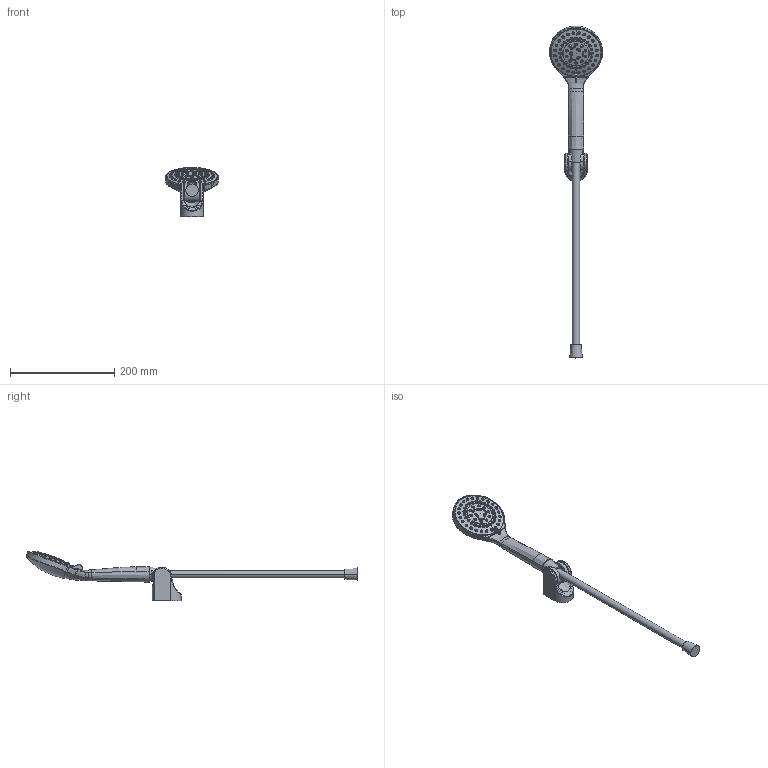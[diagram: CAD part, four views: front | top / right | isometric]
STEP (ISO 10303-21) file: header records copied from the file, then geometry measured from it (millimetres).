
FILE_DESCRIPTION (( 'STEP AP203' ), '1' );
FILE_NAME ('5902539831955.STEP', '2022-11-28T13:33:21', ( '' ), ( '' ), 'SwSTEP 2.0', 'SolidWorks 2022', '' );
FILE_SCHEMA (( 'CONFIG_CONTROL_DESIGN' ));
Length unit declared in the file: millimetre
Products named in the file (3): 5902539833478_stp.stp; 5902539831948_stp.stp; 5902539831955
Assembly tree (2 placements, depth 2):
  5902539831955
    5902539833478_stp.stp
    5902539831948_stp.stp
Bounding box: 101.82 x 637.57 x 95.23 mm (x, y, z)
Volume: 131782.3 mm3; surface area: 165271.8 mm2
Topology: 5 solids, 9 shells, 2863 faces, 7514 edges, 4763 vertices
Faces by surface type: plane 725, cylinder 707, bspline 515, cone 462, torus 370, sphere 84
Entity records: 187978 total; most frequent: CARTESIAN_POINT 124645, ORIENTED_EDGE 14888, DIRECTION 10863, EDGE_CURVE 7444, VERTEX_POINT 4747, AXIS2_PLACEMENT_3D 4676, EDGE_LOOP 3301, B_SPLINE_CURVE_WITH_KNOTS 3081
